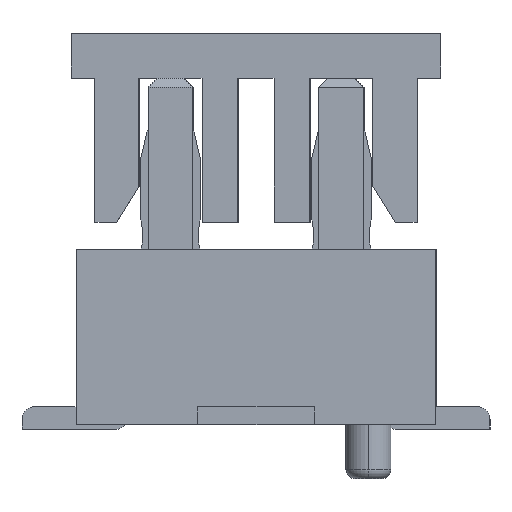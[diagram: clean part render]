
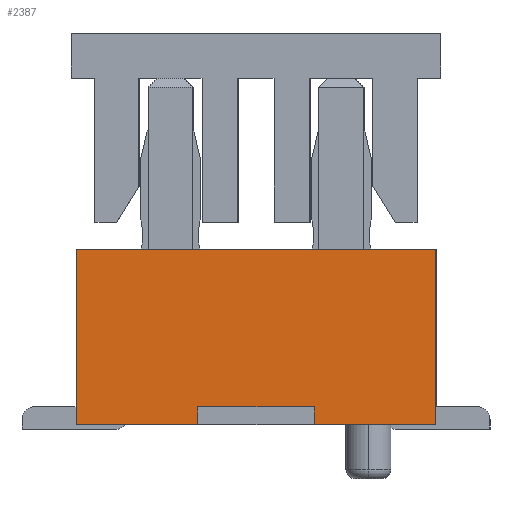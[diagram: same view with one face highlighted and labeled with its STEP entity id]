
A CAD part, left-side view. The second image highlights one B-rep face of the part: STEP entity #2387.
In plain terms, the highlighted planar face has unit normal (-1, 0, 0).
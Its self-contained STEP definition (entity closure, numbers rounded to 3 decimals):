
#1627 = VERTEX_POINT ( 'NONE', #33955 ) ;
#2015 = AXIS2_PLACEMENT_3D ( 'NONE', #46143, #19024, #42259 ) ;
#2161 = CARTESIAN_POINT ( 'NONE',  ( -4.95, 2., 1.95 ) ) ;
#2382 = EDGE_CURVE ( 'NONE', #19698, #28622, #19790, .T. ) ;
#2387 = ADVANCED_FACE ( 'NONE', ( #14898 ), #15906, .F. ) ;
#2664 = EDGE_CURVE ( 'NONE', #14671, #34602, #13568, .T. ) ;
#2843 = DIRECTION ( 'NONE',  ( 0., 0., 1. ) ) ;
#2900 = DIRECTION ( 'NONE',  ( 0., 0., 1. ) ) ;
#2947 = VERTEX_POINT ( 'NONE', #16556 ) ;
#6716 = CARTESIAN_POINT ( 'NONE',  ( -4.95, -0.65, 0. ) ) ;
#6771 = CARTESIAN_POINT ( 'NONE',  ( -4.95, 0.65, 0.1 ) ) ;
#7672 = VECTOR ( 'NONE', #37873, 1000. ) ;
#10782 = EDGE_CURVE ( 'NONE', #1627, #19698, #36736, .T. ) ;
#11286 = VECTOR ( 'NONE', #2843, 1000. ) ;
#11805 = CARTESIAN_POINT ( 'NONE',  ( -4.95, 0.65, 0. ) ) ;
#12735 = EDGE_CURVE ( 'NONE', #32194, #1627, #38365, .T. ) ;
#13258 = ORIENTED_EDGE ( 'NONE', *, *, #12735, .F. ) ;
#13568 = LINE ( 'NONE', #29313, #20965 ) ;
#13584 = LINE ( 'NONE', #29329, #37860 ) ;
#14671 = VERTEX_POINT ( 'NONE', #26200 ) ;
#14898 = FACE_OUTER_BOUND ( 'NONE', #16437, .T. ) ;
#15683 = VECTOR ( 'NONE', #36871, 1000. ) ;
#15906 = PLANE ( 'NONE',  #2015 ) ;
#16118 = ORIENTED_EDGE ( 'NONE', *, *, #34604, .F. ) ;
#16437 = EDGE_LOOP ( 'NONE', ( #37452, #39452, #16118, #18286, #40577, #43516, #41780, #13258 ) ) ;
#16464 = LINE ( 'NONE', #21100, #15683 ) ;
#16556 = CARTESIAN_POINT ( 'NONE',  ( -4.95, -0.65, 0.2 ) ) ;
#16870 = CARTESIAN_POINT ( 'NONE',  ( -4.95, 0.65, 0.2 ) ) ;
#17207 = DIRECTION ( 'NONE',  ( 0., 1., 0. ) ) ;
#18286 = ORIENTED_EDGE ( 'NONE', *, *, #2664, .F. ) ;
#19024 = DIRECTION ( 'NONE',  ( 1., 0., 0. ) ) ;
#19698 = VERTEX_POINT ( 'NONE', #2161 ) ;
#19790 = LINE ( 'NONE', #35552, #43234 ) ;
#20965 = VECTOR ( 'NONE', #17207, 1000. ) ;
#21100 = CARTESIAN_POINT ( 'NONE',  ( -4.95, 0., 0.2 ) ) ;
#21836 = CARTESIAN_POINT ( 'NONE',  ( -4.95, 1.325, 0. ) ) ;
#22314 = EDGE_CURVE ( 'NONE', #28622, #14671, #13584, .T. ) ;
#22463 = LINE ( 'NONE', #38495, #11286 ) ;
#26200 = CARTESIAN_POINT ( 'NONE',  ( -4.95, -2., 0. ) ) ;
#28209 = CARTESIAN_POINT ( 'NONE',  ( -4.95, 2., 0.975 ) ) ;
#28622 = VERTEX_POINT ( 'NONE', #38364 ) ;
#29313 = CARTESIAN_POINT ( 'NONE',  ( -4.95, -1.325, 0. ) ) ;
#29329 = CARTESIAN_POINT ( 'NONE',  ( -4.95, -2., 0.975 ) ) ;
#29716 = EDGE_CURVE ( 'NONE', #2947, #48194, #16464, .T. ) ;
#30827 = VECTOR ( 'NONE', #44217, 1000. ) ;
#32194 = VERTEX_POINT ( 'NONE', #11805 ) ;
#33460 = DIRECTION ( 'NONE',  ( 0., 0., -1. ) ) ;
#33955 = CARTESIAN_POINT ( 'NONE',  ( -4.95, 2., 0. ) ) ;
#34602 = VERTEX_POINT ( 'NONE', #6716 ) ;
#34604 = EDGE_CURVE ( 'NONE', #34602, #2947, #22463, .T. ) ;
#35552 = CARTESIAN_POINT ( 'NONE',  ( -4.95, 0., 1.95 ) ) ;
#36736 = LINE ( 'NONE', #28209, #30827 ) ;
#36871 = DIRECTION ( 'NONE',  ( 0., 1., 0. ) ) ;
#37452 = ORIENTED_EDGE ( 'NONE', *, *, #45918, .T. ) ;
#37860 = VECTOR ( 'NONE', #33460, 1000. ) ;
#37873 = DIRECTION ( 'NONE',  ( 0., 1., 0. ) ) ;
#38364 = CARTESIAN_POINT ( 'NONE',  ( -4.95, -2., 1.95 ) ) ;
#38365 = LINE ( 'NONE', #21836, #7672 ) ;
#38495 = CARTESIAN_POINT ( 'NONE',  ( -4.95, -0.65, 0.1 ) ) ;
#39452 = ORIENTED_EDGE ( 'NONE', *, *, #29716, .F. ) ;
#40577 = ORIENTED_EDGE ( 'NONE', *, *, #22314, .F. ) ;
#41780 = ORIENTED_EDGE ( 'NONE', *, *, #10782, .F. ) ;
#42160 = LINE ( 'NONE', #6771, #48596 ) ;
#42259 = DIRECTION ( 'NONE',  ( 0., 1., 0. ) ) ;
#43234 = VECTOR ( 'NONE', #46644, 1000. ) ;
#43516 = ORIENTED_EDGE ( 'NONE', *, *, #2382, .F. ) ;
#44217 = DIRECTION ( 'NONE',  ( 0., 0., 1. ) ) ;
#45918 = EDGE_CURVE ( 'NONE', #32194, #48194, #42160, .T. ) ;
#46143 = CARTESIAN_POINT ( 'NONE',  ( -4.95, 0., 0. ) ) ;
#46644 = DIRECTION ( 'NONE',  ( 0., -1., 0. ) ) ;
#48194 = VERTEX_POINT ( 'NONE', #16870 ) ;
#48596 = VECTOR ( 'NONE', #2900, 1000. ) ;
